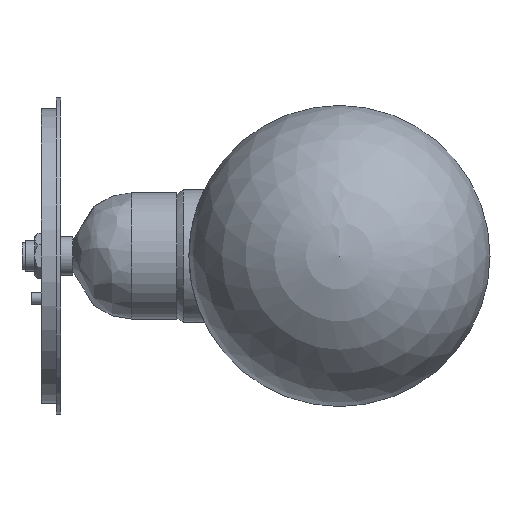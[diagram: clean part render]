
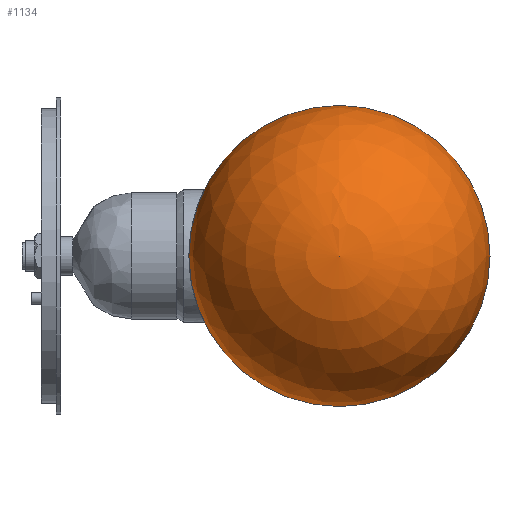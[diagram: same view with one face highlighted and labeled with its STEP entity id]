
A CAD part, left-side view. The second image highlights one B-rep face of the part: STEP entity #1134.
In plain terms, the highlighted spherical face has radius 50 mm.
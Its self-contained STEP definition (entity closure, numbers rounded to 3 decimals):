
#13=SPHERICAL_SURFACE('',#1294,50.);
#168=FACE_OUTER_BOUND('',#247,.T.);
#247=EDGE_LOOP('',(#914,#915,#916));
#306=CIRCLE('',#1295,50.);
#307=CIRCLE('',#1296,50.);
#503=VERTEX_POINT('',#2204);
#504=VERTEX_POINT('',#2206);
#642=EDGE_CURVE('',#503,#503,#306,.T.);
#643=EDGE_CURVE('',#504,#503,#307,.T.);
#914=ORIENTED_EDGE('',*,*,#642,.T.);
#915=ORIENTED_EDGE('',*,*,#643,.F.);
#916=ORIENTED_EDGE('',*,*,#643,.T.);
#1134=ADVANCED_FACE('',(#168),#13,.T.);
#1294=AXIS2_PLACEMENT_3D('',#2203,#1598,#1599);
#1295=AXIS2_PLACEMENT_3D('',#2205,#1600,#1601);
#1296=AXIS2_PLACEMENT_3D('',#2207,#1602,#1603);
#1598=DIRECTION('center_axis',(-1.,0.,0.));
#1599=DIRECTION('ref_axis',(0.,0.,-1.));
#1600=DIRECTION('center_axis',(-1.,0.,0.));
#1601=DIRECTION('ref_axis',(0.,0.,-1.));
#1602=DIRECTION('center_axis',(0.,1.,0.));
#1603=DIRECTION('ref_axis',(0.,0.,1.));
#2203=CARTESIAN_POINT('Origin',(-200.,-92.6,-52.5));
#2204=CARTESIAN_POINT('',(-200.,-92.6,-2.5));
#2205=CARTESIAN_POINT('Origin',(-200.,-92.6,-52.5));
#2206=CARTESIAN_POINT('',(-250.,-92.6,-52.5));
#2207=CARTESIAN_POINT('Origin',(-200.,-92.6,-52.5));
